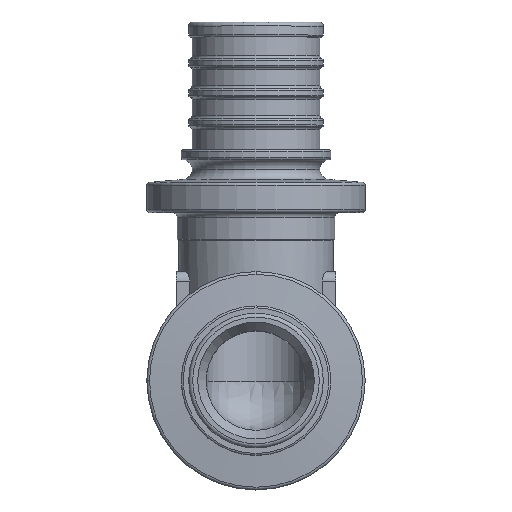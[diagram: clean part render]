
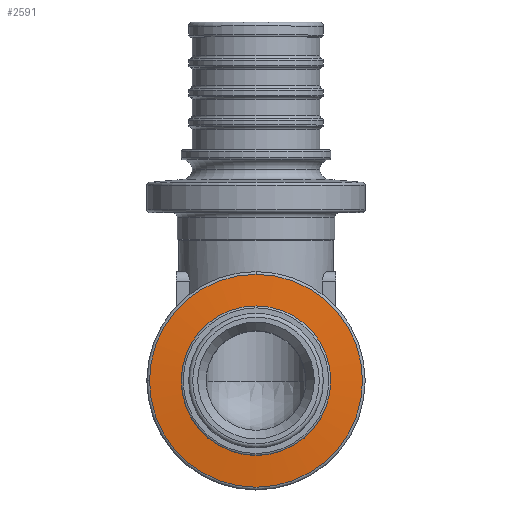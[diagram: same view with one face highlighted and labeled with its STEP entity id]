
A CAD part, top view. The second image highlights one B-rep face of the part: STEP entity #2591.
In plain terms, the highlighted conical face has half-angle 85 degrees and reference radius 8.995 mm.
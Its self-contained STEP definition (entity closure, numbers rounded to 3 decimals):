
#2591=ADVANCED_FACE('',(#5267,#5269),#5271,.T.);
#5267=FACE_BOUND('',#5268,.T.);
#5268=EDGE_LOOP('',(#7867,#7868));
#5269=FACE_BOUND('',#5270,.T.);
#5270=EDGE_LOOP('',(#7869,#7870));
#5271=CONICAL_SURFACE('',#5272,8.994,1.484);
#5272=AXIS2_PLACEMENT_3D('',#5273,#5274,#5275);
#5273=CARTESIAN_POINT('',(0.,0.,20.071));
#5274=DIRECTION('',(0.,0.,-1.));
#5275=DIRECTION('',(0.,-1.,0.));
#7867=ORIENTED_EDGE('',*,*,#8819,.T.);
#7868=ORIENTED_EDGE('',*,*,#8820,.T.);
#7869=ORIENTED_EDGE('',*,*,#8814,.T.);
#7870=ORIENTED_EDGE('',*,*,#8812,.T.);
#8812=EDGE_CURVE('',#10190,#10188,#10191,.T.);
#8814=EDGE_CURVE('',#10188,#10190,#10193,.T.);
#8819=EDGE_CURVE('',#10200,#10201,#10202,.F.);
#8820=EDGE_CURVE('',#10201,#10200,#10203,.F.);
#10188=VERTEX_POINT('',#13456);
#10190=VERTEX_POINT('',#13461);
#10191=CIRCLE('',#13462,10.676);
#10193=CIRCLE('',#13470,10.676);
#10200=VERTEX_POINT('',#13492);
#10201=VERTEX_POINT('',#13493);
#10202=CIRCLE('',#13494,7.313);
#10203=CIRCLE('',#13498,7.313);
#13456=CARTESIAN_POINT('',(0.,10.676,19.924));
#13461=CARTESIAN_POINT('',(-10.676,0.,19.924));
#13462=AXIS2_PLACEMENT_3D('',#13463,#13464,#13465);
#13463=CARTESIAN_POINT('',(0.,0.,19.924));
#13464=DIRECTION('',(0.,0.,1.));
#13465=DIRECTION('',(-1.,0.,0.));
#13470=AXIS2_PLACEMENT_3D('',#13471,#13472,#13473);
#13471=CARTESIAN_POINT('',(0.,0.,19.924));
#13472=DIRECTION('',(0.,0.,1.));
#13473=DIRECTION('',(0.,1.,0.));
#13492=CARTESIAN_POINT('',(7.313,0.,20.218));
#13493=CARTESIAN_POINT('',(0.,7.313,20.218));
#13494=AXIS2_PLACEMENT_3D('',#13495,#13496,#13497);
#13495=CARTESIAN_POINT('',(0.,0.,20.218));
#13496=DIRECTION('',(0.,0.,1.));
#13497=DIRECTION('',(0.,1.,0.));
#13498=AXIS2_PLACEMENT_3D('',#13499,#13500,#13501);
#13499=CARTESIAN_POINT('',(0.,0.,20.218));
#13500=DIRECTION('',(0.,0.,1.));
#13501=DIRECTION('',(1.,0.,0.));
